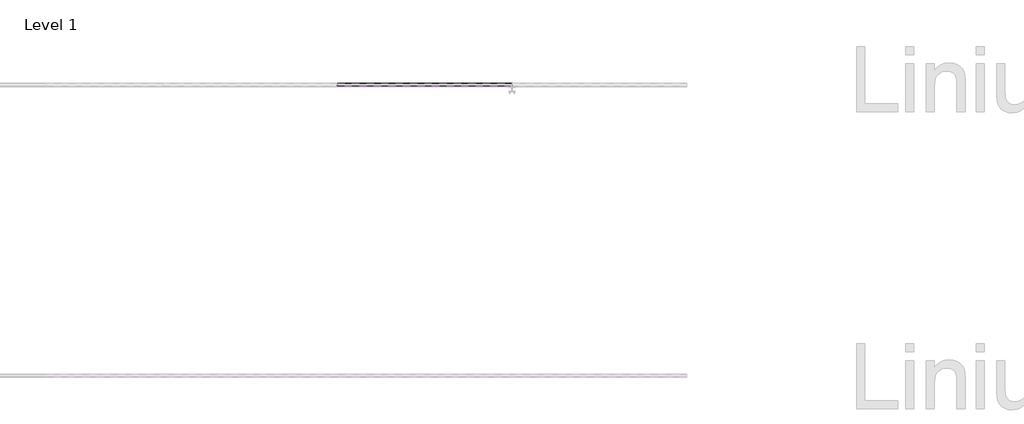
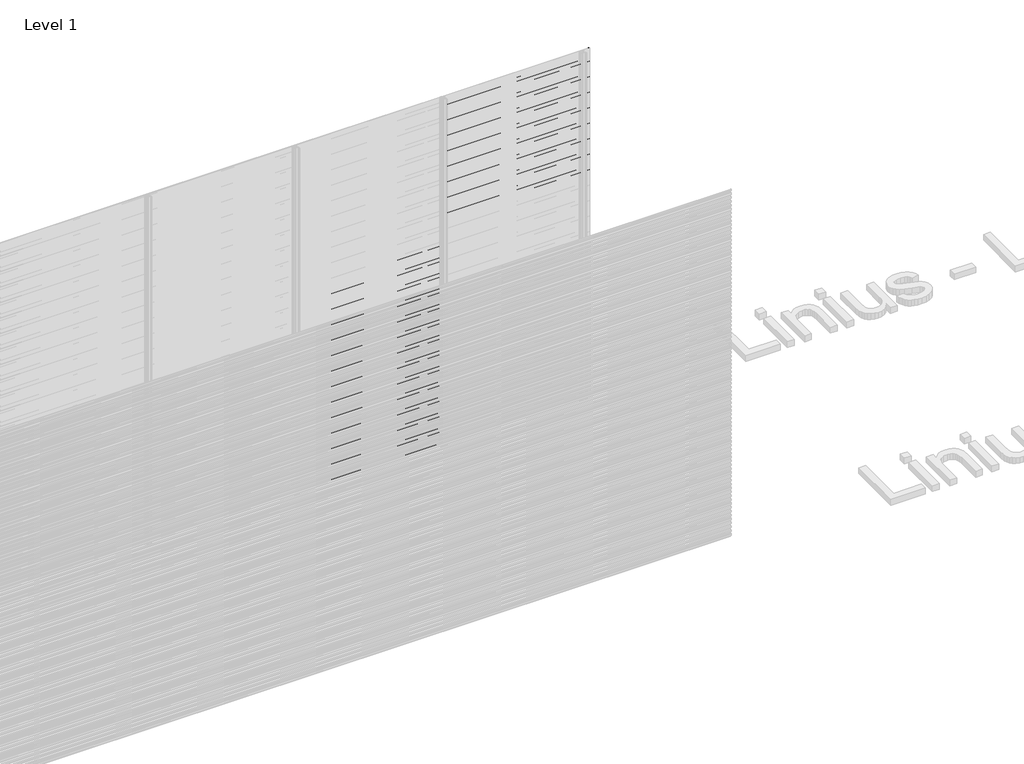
# One storey, part 41 of 507: 84 proxies.
"""IFC4 building model written with IfcOpenShell, lengths in millimetres."""

from ifc_helpers import new_model, si_unit, frame, origin, place, context, project, spatial, polyline, outline, extrude, element, save

model = new_model("IFC4")

# Units and contexts
model_context = context("Model", 3, world=origin())
ifc_project = project(units=[si_unit("LENGTHUNIT", "METRE", prefix="MILLI")], contexts=[model_context])

# Site, building, storey
site = spatial("IfcSite", under=ifc_project)
building = spatial("IfcBuilding", under=site)
storey = spatial("IfcBuildingStorey", under=building, Name="Level 1", Elevation=0.0)

# Proxies
placement = place(None, origin())
element("IfcBuildingElementProxy", 1, Name="Wall Sweeps", at=placement, inside=storey, context=model_context, shape_type="SweptSolid", body=[
    extrude(outline(polyline([(21503.4540136, 1707.6), (21503.4540136, 1694.1), (21502.2040136, 1694.8216933), (21502.2040136, 1706.8782281), (21483.0540136, 1717.9345698), (21483.0540136, 1731.6), (21484.3040136, 1731.6), (21484.3040136, 1718.6562577), (21503.4540136, 1707.6)])), frame((48566.6208096, 0.0, 0.0), z_axis=(1.0, 0.0, 0.0), x_axis=(0.0, 1.0, 0.0)), (0.0, 0.0, 1.0), 1199.9999999),
])
element("IfcBuildingElementProxy", 2, Name="Wall Sweeps", at=placement, inside=storey, context=model_context, shape_type="SweptSolid", body=[
    extrude(outline(polyline([(21503.4540136, 1674.3), (21503.4540136, 1660.8), (21502.2040136, 1661.5216933), (21502.2040136, 1673.5782281), (21483.0540136, 1684.6345698), (21483.0540136, 1698.3), (21484.3040136, 1698.3), (21484.3040136, 1685.3562577), (21503.4540136, 1674.3)])), frame((48566.6208096, 0.0, 0.0), z_axis=(1.0, 0.0, 0.0), x_axis=(0.0, 1.0, 0.0)), (0.0, 0.0, 1.0), 1199.9999999),
])
element("IfcBuildingElementProxy", 3, Name="Wall Sweeps", at=placement, inside=storey, context=model_context, shape_type="SweptSolid", body=[
    extrude(outline(polyline([(21503.4540136, 1641.0), (21503.4540136, 1627.5), (21502.2040136, 1628.2216933), (21502.2040136, 1640.2782281), (21483.0540136, 1651.3345698), (21483.0540136, 1665.0), (21484.3040136, 1665.0), (21484.3040136, 1652.0562577), (21503.4540136, 1641.0)])), frame((48566.6208096, 0.0, 0.0), z_axis=(1.0, 0.0, 0.0), x_axis=(0.0, 1.0, 0.0)), (0.0, 0.0, 1.0), 1199.9999999),
])
element("IfcBuildingElementProxy", 4, Name="Wall Sweeps", at=placement, inside=storey, context=model_context, shape_type="SweptSolid", body=[
    extrude(outline(polyline([(21503.4540136, 1607.7), (21503.4540136, 1594.2), (21502.2040136, 1594.9216933), (21502.2040136, 1606.9782281), (21483.0540136, 1618.0345698), (21483.0540136, 1631.7), (21484.3040136, 1631.7), (21484.3040136, 1618.7562577), (21503.4540136, 1607.7)])), frame((48566.6208096, 0.0, 0.0), z_axis=(1.0, 0.0, 0.0), x_axis=(0.0, 1.0, 0.0)), (0.0, 0.0, 1.0), 1199.9999999),
])
element("IfcBuildingElementProxy", 5, Name="Wall Sweeps", at=placement, inside=storey, context=model_context, shape_type="SweptSolid", body=[
    extrude(outline(polyline([(21503.4540136, 1574.4), (21503.4540136, 1560.9), (21502.2040136, 1561.6216933), (21502.2040136, 1573.6782281), (21483.0540136, 1584.7345698), (21483.0540136, 1598.4), (21484.3040136, 1598.4), (21484.3040136, 1585.4562577), (21503.4540136, 1574.4)])), frame((48566.6208096, 0.0, 0.0), z_axis=(1.0, 0.0, 0.0), x_axis=(0.0, 1.0, 0.0)), (0.0, 0.0, 1.0), 1199.9999999),
])
element("IfcBuildingElementProxy", 6, Name="Wall Sweeps", at=placement, inside=storey, context=model_context, shape_type="SweptSolid", body=[
    extrude(outline(polyline([(21503.4540136, 1541.1), (21503.4540136, 1527.6), (21502.2040136, 1528.3216933), (21502.2040136, 1540.3782281), (21483.0540136, 1551.4345698), (21483.0540136, 1565.1), (21484.3040136, 1565.1), (21484.3040136, 1552.1562577), (21503.4540136, 1541.1)])), frame((48566.6208096, 0.0, 0.0), z_axis=(1.0, 0.0, 0.0), x_axis=(0.0, 1.0, 0.0)), (0.0, 0.0, 1.0), 1199.9999999),
])
element("IfcBuildingElementProxy", 7, Name="Wall Sweeps", at=placement, inside=storey, context=model_context, shape_type="SweptSolid", body=[
    extrude(outline(polyline([(21503.4540136, 1507.8), (21503.4540136, 1494.3), (21502.2040136, 1495.0216933), (21502.2040136, 1507.0782281), (21483.0540136, 1518.1345698), (21483.0540136, 1531.8), (21484.3040136, 1531.8), (21484.3040136, 1518.8562577), (21503.4540136, 1507.8)])), frame((48566.6208096, 0.0, 0.0), z_axis=(1.0, 0.0, 0.0), x_axis=(0.0, 1.0, 0.0)), (0.0, 0.0, 1.0), 1199.9999999),
])
element("IfcBuildingElementProxy", 8, Name="Wall Sweeps", at=placement, inside=storey, context=model_context, shape_type="SweptSolid", body=[
    extrude(outline(polyline([(21503.4540136, 1474.5), (21503.4540136, 1461.0), (21502.2040136, 1461.7216933), (21502.2040136, 1473.7782281), (21483.0540136, 1484.8345698), (21483.0540136, 1498.5), (21484.3040136, 1498.5), (21484.3040136, 1485.5562577), (21503.4540136, 1474.5)])), frame((48566.6208096, 0.0, 0.0), z_axis=(1.0, 0.0, 0.0), x_axis=(0.0, 1.0, 0.0)), (0.0, 0.0, 1.0), 1199.9999999),
])
element("IfcBuildingElementProxy", 9, Name="Wall Sweeps", at=placement, inside=storey, context=model_context, shape_type="SweptSolid", body=[
    extrude(outline(polyline([(21503.4540136, 1441.2), (21503.4540136, 1427.7), (21502.2040136, 1428.4216933), (21502.2040136, 1440.4782281), (21483.0540136, 1451.5345698), (21483.0540136, 1465.2), (21484.3040136, 1465.2), (21484.3040136, 1452.2562577), (21503.4540136, 1441.2)])), frame((48566.6208096, 0.0, 0.0), z_axis=(1.0, 0.0, 0.0), x_axis=(0.0, 1.0, 0.0)), (0.0, 0.0, 1.0), 1199.9999999),
])
element("IfcBuildingElementProxy", 10, Name="Wall Sweeps", at=placement, inside=storey, context=model_context, shape_type="SweptSolid", body=[
    extrude(outline(polyline([(21503.4540136, 1407.9), (21503.4540136, 1394.4), (21502.2040136, 1395.1216933), (21502.2040136, 1407.1782281), (21483.0540136, 1418.2345698), (21483.0540136, 1431.9), (21484.3040136, 1431.9), (21484.3040136, 1418.9562577), (21503.4540136, 1407.9)])), frame((48566.6208096, 0.0, 0.0), z_axis=(1.0, 0.0, 0.0), x_axis=(0.0, 1.0, 0.0)), (0.0, 0.0, 1.0), 1199.9999999),
])
element("IfcBuildingElementProxy", 11, Name="Wall Sweeps", at=placement, inside=storey, context=model_context, shape_type="SweptSolid", body=[
    extrude(outline(polyline([(21503.4540136, 1374.6), (21503.4540136, 1361.1), (21502.2040136, 1361.8216933), (21502.2040136, 1373.8782281), (21483.0540136, 1384.9345698), (21483.0540136, 1398.6), (21484.3040136, 1398.6), (21484.3040136, 1385.6562577), (21503.4540136, 1374.6)])), frame((48566.6208096, 0.0, 0.0), z_axis=(1.0, 0.0, 0.0), x_axis=(0.0, 1.0, 0.0)), (0.0, 0.0, 1.0), 1199.9999999),
])
element("IfcBuildingElementProxy", 12, Name="Wall Sweeps", at=placement, inside=storey, context=model_context, shape_type="SweptSolid", body=[
    extrude(outline(polyline([(21503.4540136, 1341.3), (21503.4540136, 1327.8), (21502.2040136, 1328.5216933), (21502.2040136, 1340.5782281), (21483.0540136, 1351.6345698), (21483.0540136, 1365.3), (21484.3040136, 1365.3), (21484.3040136, 1352.3562577), (21503.4540136, 1341.3)])), frame((48566.6208096, 0.0, 0.0), z_axis=(1.0, 0.0, 0.0), x_axis=(0.0, 1.0, 0.0)), (0.0, 0.0, 1.0), 1199.9999999),
])
element("IfcBuildingElementProxy", 13, Name="Wall Sweeps", at=placement, inside=storey, context=model_context, shape_type="SweptSolid", body=[
    extrude(outline(polyline([(21503.4540136, 1308.0), (21503.4540136, 1294.5), (21502.2040136, 1295.2216933), (21502.2040136, 1307.2782281), (21483.0540136, 1318.3345698), (21483.0540136, 1332.0), (21484.3040136, 1332.0), (21484.3040136, 1319.0562577), (21503.4540136, 1308.0)])), frame((48566.6208096, 0.0, 0.0), z_axis=(1.0, 0.0, 0.0), x_axis=(0.0, 1.0, 0.0)), (0.0, 0.0, 1.0), 1199.9999999),
])
element("IfcBuildingElementProxy", 14, Name="Wall Sweeps", at=placement, inside=storey, context=model_context, shape_type="SweptSolid", body=[
    extrude(outline(polyline([(21503.4540136, 1274.7), (21503.4540136, 1261.2), (21502.2040136, 1261.9216933), (21502.2040136, 1273.9782281), (21483.0540136, 1285.0345698), (21483.0540136, 1298.7), (21484.3040136, 1298.7), (21484.3040136, 1285.7562577), (21503.4540136, 1274.7)])), frame((48566.6208096, 0.0, 0.0), z_axis=(1.0, 0.0, 0.0), x_axis=(0.0, 1.0, 0.0)), (0.0, 0.0, 1.0), 1199.9999999),
])
element("IfcBuildingElementProxy", 15, Name="Wall Sweeps", at=placement, inside=storey, context=model_context, shape_type="SweptSolid", body=[
    extrude(outline(polyline([(21503.4540136, 1241.4), (21503.4540136, 1227.9), (21502.2040136, 1228.6216933), (21502.2040136, 1240.6782281), (21483.0540136, 1251.7345698), (21483.0540136, 1265.4), (21484.3040136, 1265.4), (21484.3040136, 1252.4562577), (21503.4540136, 1241.4)])), frame((48566.6208096, 0.0, 0.0), z_axis=(1.0, 0.0, 0.0), x_axis=(0.0, 1.0, 0.0)), (0.0, 0.0, 1.0), 1199.9999999),
])
element("IfcBuildingElementProxy", 16, Name="Wall Sweeps", at=placement, inside=storey, context=model_context, shape_type="SweptSolid", body=[
    extrude(outline(polyline([(21503.4540136, 1208.1), (21503.4540136, 1194.6), (21502.2040136, 1195.3216933), (21502.2040136, 1207.3782281), (21483.0540136, 1218.4345698), (21483.0540136, 1232.1), (21484.3040136, 1232.1), (21484.3040136, 1219.1562577), (21503.4540136, 1208.1)])), frame((48566.6208096, 0.0, 0.0), z_axis=(1.0, 0.0, 0.0), x_axis=(0.0, 1.0, 0.0)), (0.0, 0.0, 1.0), 1199.9999999),
])
element("IfcBuildingElementProxy", 17, Name="Wall Sweeps", at=placement, inside=storey, context=model_context, shape_type="SweptSolid", body=[
    extrude(outline(polyline([(21503.4540136, 1174.8), (21503.4540136, 1161.3), (21502.2040136, 1162.0216933), (21502.2040136, 1174.0782281), (21483.0540136, 1185.1345698), (21483.0540136, 1198.8), (21484.3040136, 1198.8), (21484.3040136, 1185.8562577), (21503.4540136, 1174.8)])), frame((48566.6208096, 0.0, 0.0), z_axis=(1.0, 0.0, 0.0), x_axis=(0.0, 1.0, 0.0)), (0.0, 0.0, 1.0), 1199.9999999),
])
element("IfcBuildingElementProxy", 18, Name="Wall Sweeps", at=placement, inside=storey, context=model_context, shape_type="SweptSolid", body=[
    extrude(outline(polyline([(21503.4540136, 1141.5), (21503.4540136, 1128.0), (21502.2040136, 1128.7216933), (21502.2040136, 1140.7782281), (21483.0540136, 1151.8345698), (21483.0540136, 1165.5), (21484.3040136, 1165.5), (21484.3040136, 1152.5562577), (21503.4540136, 1141.5)])), frame((48566.6208096, 0.0, 0.0), z_axis=(1.0, 0.0, 0.0), x_axis=(0.0, 1.0, 0.0)), (0.0, 0.0, 1.0), 1199.9999999),
])
element("IfcBuildingElementProxy", 19, Name="Wall Sweeps", at=placement, inside=storey, context=model_context, shape_type="SweptSolid", body=[
    extrude(outline(polyline([(21503.4540136, 1108.2), (21503.4540136, 1094.7), (21502.2040136, 1095.4216933), (21502.2040136, 1107.4782281), (21483.0540136, 1118.5345698), (21483.0540136, 1132.2), (21484.3040136, 1132.2), (21484.3040136, 1119.2562577), (21503.4540136, 1108.2)])), frame((48566.6208096, 0.0, 0.0), z_axis=(1.0, 0.0, 0.0), x_axis=(0.0, 1.0, 0.0)), (0.0, 0.0, 1.0), 1199.9999999),
])
element("IfcBuildingElementProxy", 20, Name="Wall Sweeps", at=placement, inside=storey, context=model_context, shape_type="SweptSolid", body=[
    extrude(outline(polyline([(21503.4540136, 1074.9), (21503.4540136, 1061.4), (21502.2040136, 1062.1216933), (21502.2040136, 1074.1782281), (21483.0540136, 1085.2345698), (21483.0540136, 1098.9), (21484.3040136, 1098.9), (21484.3040136, 1085.9562577), (21503.4540136, 1074.9)])), frame((48566.6208096, 0.0, 0.0), z_axis=(1.0, 0.0, 0.0), x_axis=(0.0, 1.0, 0.0)), (0.0, 0.0, 1.0), 1199.9999999),
])
element("IfcBuildingElementProxy", 21, Name="Wall Sweeps", at=placement, inside=storey, context=model_context, shape_type="SweptSolid", body=[
    extrude(outline(polyline([(21503.4540136, 1041.6), (21503.4540136, 1028.1), (21502.2040136, 1028.8216933), (21502.2040136, 1040.8782281), (21483.0540136, 1051.9345698), (21483.0540136, 1065.6), (21484.3040136, 1065.6), (21484.3040136, 1052.6562577), (21503.4540136, 1041.6)])), frame((48566.6208096, 0.0, 0.0), z_axis=(1.0, 0.0, 0.0), x_axis=(0.0, 1.0, 0.0)), (0.0, 0.0, 1.0), 1199.9999999),
])
element("IfcBuildingElementProxy", 22, Name="Wall Sweeps", at=placement, inside=storey, context=model_context, shape_type="SweptSolid", body=[
    extrude(outline(polyline([(21503.4540136, 1008.3), (21503.4540136, 994.8), (21502.2040136, 995.5216933), (21502.2040136, 1007.5782281), (21483.0540136, 1018.6345698), (21483.0540136, 1032.3), (21484.3040136, 1032.3), (21484.3040136, 1019.3562577), (21503.4540136, 1008.3)])), frame((48566.6208096, 0.0, 0.0), z_axis=(1.0, 0.0, 0.0), x_axis=(0.0, 1.0, 0.0)), (0.0, 0.0, 1.0), 1199.9999999),
])
element("IfcBuildingElementProxy", 23, Name="Wall Sweeps", at=placement, inside=storey, context=model_context, shape_type="SweptSolid", body=[
    extrude(outline(polyline([(21503.4540136, 975.0), (21503.4540136, 961.5), (21502.2040136, 962.2216933), (21502.2040136, 974.2782281), (21483.0540136, 985.3345698), (21483.0540136, 999.0), (21484.3040136, 999.0), (21484.3040136, 986.0562577), (21503.4540136, 975.0)])), frame((48566.6208096, 0.0, 0.0), z_axis=(1.0, 0.0, 0.0), x_axis=(0.0, 1.0, 0.0)), (0.0, 0.0, 1.0), 1199.9999999),
])
element("IfcBuildingElementProxy", 24, Name="Wall Sweeps", at=placement, inside=storey, context=model_context, shape_type="SweptSolid", body=[
    extrude(outline(polyline([(21503.4540136, 941.7), (21503.4540136, 928.2), (21502.2040136, 928.9216933), (21502.2040136, 940.9782281), (21483.0540136, 952.0345698), (21483.0540136, 965.7), (21484.3040136, 965.7), (21484.3040136, 952.7562577), (21503.4540136, 941.7)])), frame((48566.6208096, 0.0, 0.0), z_axis=(1.0, 0.0, 0.0), x_axis=(0.0, 1.0, 0.0)), (0.0, 0.0, 1.0), 1199.9999999),
])
element("IfcBuildingElementProxy", 25, Name="Wall Sweeps", at=placement, inside=storey, context=model_context, shape_type="SweptSolid", body=[
    extrude(outline(polyline([(21503.4540136, 908.4), (21503.4540136, 894.9), (21502.2040136, 895.6216933), (21502.2040136, 907.6782281), (21483.0540136, 918.7345698), (21483.0540136, 932.4), (21484.3040136, 932.4), (21484.3040136, 919.4562577), (21503.4540136, 908.4)])), frame((48566.6208096, 0.0, 0.0), z_axis=(1.0, 0.0, 0.0), x_axis=(0.0, 1.0, 0.0)), (0.0, 0.0, 1.0), 1199.9999999),
])
element("IfcBuildingElementProxy", 26, Name="Wall Sweeps", at=placement, inside=storey, context=model_context, shape_type="SweptSolid", body=[
    extrude(outline(polyline([(21503.4540136, 875.1), (21503.4540136, 861.6), (21502.2040136, 862.3216933), (21502.2040136, 874.3782281), (21483.0540136, 885.4345698), (21483.0540136, 899.1), (21484.3040136, 899.1), (21484.3040136, 886.1562577), (21503.4540136, 875.1)])), frame((48566.6208096, 0.0, 0.0), z_axis=(1.0, 0.0, 0.0), x_axis=(0.0, 1.0, 0.0)), (0.0, 0.0, 1.0), 1199.9999999),
])
element("IfcBuildingElementProxy", 27, Name="Wall Sweeps", at=placement, inside=storey, context=model_context, shape_type="SweptSolid", body=[
    extrude(outline(polyline([(21503.4540136, 841.8), (21503.4540136, 828.3), (21502.2040136, 829.0216933), (21502.2040136, 841.0782281), (21483.0540136, 852.1345698), (21483.0540136, 865.8), (21484.3040136, 865.8), (21484.3040136, 852.8562577), (21503.4540136, 841.8)])), frame((48566.6208096, 0.0, 0.0), z_axis=(1.0, 0.0, 0.0), x_axis=(0.0, 1.0, 0.0)), (0.0, 0.0, 1.0), 1199.9999999),
])
element("IfcBuildingElementProxy", 28, Name="Wall Sweeps", at=placement, inside=storey, context=model_context, shape_type="SweptSolid", body=[
    extrude(outline(polyline([(21503.4540136, 808.5), (21503.4540136, 795.0), (21502.2040136, 795.7216933), (21502.2040136, 807.7782281), (21483.0540136, 818.8345698), (21483.0540136, 832.5), (21484.3040136, 832.5), (21484.3040136, 819.5562577), (21503.4540136, 808.5)])), frame((48566.6208096, 0.0, 0.0), z_axis=(1.0, 0.0, 0.0), x_axis=(0.0, 1.0, 0.0)), (0.0, 0.0, 1.0), 1199.9999999),
])
element("IfcBuildingElementProxy", 29, Name="Wall Sweeps", at=placement, inside=storey, context=model_context, shape_type="SweptSolid", body=[
    extrude(outline(polyline([(21503.4540136, 775.2), (21503.4540136, 761.7), (21502.2040136, 762.4216933), (21502.2040136, 774.4782281), (21483.0540136, 785.5345698), (21483.0540136, 799.2), (21484.3040136, 799.2), (21484.3040136, 786.2562577), (21503.4540136, 775.2)])), frame((48566.6208096, 0.0, 0.0), z_axis=(1.0, 0.0, 0.0), x_axis=(0.0, 1.0, 0.0)), (0.0, 0.0, 1.0), 1199.9999999),
])
element("IfcBuildingElementProxy", 30, Name="Wall Sweeps", at=placement, inside=storey, context=model_context, shape_type="SweptSolid", body=[
    extrude(outline(polyline([(21503.4540136, 741.9), (21503.4540136, 728.4), (21502.2040136, 729.1216933), (21502.2040136, 741.1782281), (21483.0540136, 752.2345698), (21483.0540136, 765.9), (21484.3040136, 765.9), (21484.3040136, 752.9562577), (21503.4540136, 741.9)])), frame((48566.6208096, 0.0, 0.0), z_axis=(1.0, 0.0, 0.0), x_axis=(0.0, 1.0, 0.0)), (0.0, 0.0, 1.0), 1199.9999999),
])
element("IfcBuildingElementProxy", 31, Name="Wall Sweeps", at=placement, inside=storey, context=model_context, shape_type="SweptSolid", body=[
    extrude(outline(polyline([(21503.4540136, 708.6), (21503.4540136, 695.1), (21502.2040136, 695.8216933), (21502.2040136, 707.8782281), (21483.0540136, 718.9345698), (21483.0540136, 732.6), (21484.3040136, 732.6), (21484.3040136, 719.6562577), (21503.4540136, 708.6)])), frame((48566.6208096, 0.0, 0.0), z_axis=(1.0, 0.0, 0.0), x_axis=(0.0, 1.0, 0.0)), (0.0, 0.0, 1.0), 1199.9999999),
])
element("IfcBuildingElementProxy", 32, Name="Wall Sweeps", at=placement, inside=storey, context=model_context, shape_type="SweptSolid", body=[
    extrude(outline(polyline([(21503.4540136, 675.3), (21503.4540136, 661.8), (21502.2040136, 662.5216933), (21502.2040136, 674.5782281), (21483.0540136, 685.6345698), (21483.0540136, 699.3), (21484.3040136, 699.3), (21484.3040136, 686.3562577), (21503.4540136, 675.3)])), frame((48566.6208096, 0.0, 0.0), z_axis=(1.0, 0.0, 0.0), x_axis=(0.0, 1.0, 0.0)), (0.0, 0.0, 1.0), 1199.9999999),
])
element("IfcBuildingElementProxy", 33, Name="Wall Sweeps", at=placement, inside=storey, context=model_context, shape_type="SweptSolid", body=[
    extrude(outline(polyline([(21503.4540136, 642.0), (21503.4540136, 628.5), (21502.2040136, 629.2216933), (21502.2040136, 641.2782281), (21483.0540136, 652.3345698), (21483.0540136, 666.0), (21484.3040136, 666.0), (21484.3040136, 653.0562577), (21503.4540136, 642.0)])), frame((48566.6208096, 0.0, 0.0), z_axis=(1.0, 0.0, 0.0), x_axis=(0.0, 1.0, 0.0)), (0.0, 0.0, 1.0), 1199.9999999),
])
element("IfcBuildingElementProxy", 34, Name="Wall Sweeps", at=placement, inside=storey, context=model_context, shape_type="SweptSolid", body=[
    extrude(outline(polyline([(21503.4540136, 608.7), (21503.4540136, 595.2), (21502.2040136, 595.9216933), (21502.2040136, 607.9782281), (21483.0540136, 619.0345698), (21483.0540136, 632.7), (21484.3040136, 632.7), (21484.3040136, 619.7562577), (21503.4540136, 608.7)])), frame((48566.6208096, 0.0, 0.0), z_axis=(1.0, 0.0, 0.0), x_axis=(0.0, 1.0, 0.0)), (0.0, 0.0, 1.0), 1199.9999999),
])
element("IfcBuildingElementProxy", 35, Name="Wall Sweeps", at=placement, inside=storey, context=model_context, shape_type="SweptSolid", body=[
    extrude(outline(polyline([(21503.4540136, 575.4), (21503.4540136, 561.9), (21502.2040136, 562.6216933), (21502.2040136, 574.6782281), (21483.0540136, 585.7345698), (21483.0540136, 599.4), (21484.3040136, 599.4), (21484.3040136, 586.4562577), (21503.4540136, 575.4)])), frame((48566.6208096, 0.0, 0.0), z_axis=(1.0, 0.0, 0.0), x_axis=(0.0, 1.0, 0.0)), (0.0, 0.0, 1.0), 1199.9999999),
])
element("IfcBuildingElementProxy", 36, Name="Wall Sweeps", at=placement, inside=storey, context=model_context, shape_type="SweptSolid", body=[
    extrude(outline(polyline([(21503.4540136, 542.1), (21503.4540136, 528.6), (21502.2040136, 529.3216933), (21502.2040136, 541.3782281), (21483.0540136, 552.4345698), (21483.0540136, 566.1), (21484.3040136, 566.1), (21484.3040136, 553.1562577), (21503.4540136, 542.1)])), frame((48566.6208096, 0.0, 0.0), z_axis=(1.0, 0.0, 0.0), x_axis=(0.0, 1.0, 0.0)), (0.0, 0.0, 1.0), 1199.9999999),
])
element("IfcBuildingElementProxy", 37, Name="Wall Sweeps", at=placement, inside=storey, context=model_context, shape_type="SweptSolid", body=[
    extrude(outline(polyline([(21503.4540136, 508.8), (21503.4540136, 495.3), (21502.2040136, 496.0216933), (21502.2040136, 508.0782281), (21483.0540136, 519.1345698), (21483.0540136, 532.8), (21484.3040136, 532.8), (21484.3040136, 519.8562577), (21503.4540136, 508.8)])), frame((48566.6208096, 0.0, 0.0), z_axis=(1.0, 0.0, 0.0), x_axis=(0.0, 1.0, 0.0)), (0.0, 0.0, 1.0), 1199.9999999),
])
element("IfcBuildingElementProxy", 38, Name="Wall Sweeps", at=placement, inside=storey, context=model_context, shape_type="SweptSolid", body=[
    extrude(outline(polyline([(21503.4540136, 475.5), (21503.4540136, 462.0), (21502.2040136, 462.7216933), (21502.2040136, 474.7782281), (21483.0540136, 485.8345698), (21483.0540136, 499.5), (21484.3040136, 499.5), (21484.3040136, 486.5562577), (21503.4540136, 475.5)])), frame((48566.6208096, 0.0, 0.0), z_axis=(1.0, 0.0, 0.0), x_axis=(0.0, 1.0, 0.0)), (0.0, 0.0, 1.0), 1199.9999999),
])
element("IfcBuildingElementProxy", 39, Name="Wall Sweeps", at=placement, inside=storey, context=model_context, shape_type="SweptSolid", body=[
    extrude(outline(polyline([(21503.4540136, 442.2), (21503.4540136, 428.7), (21502.2040136, 429.4216933), (21502.2040136, 441.4782281), (21483.0540136, 452.5345698), (21483.0540136, 466.2), (21484.3040136, 466.2), (21484.3040136, 453.2562577), (21503.4540136, 442.2)])), frame((48566.6208096, 0.0, 0.0), z_axis=(1.0, 0.0, 0.0), x_axis=(0.0, 1.0, 0.0)), (0.0, 0.0, 1.0), 1199.9999999),
])
element("IfcBuildingElementProxy", 40, Name="Wall Sweeps", at=placement, inside=storey, context=model_context, shape_type="SweptSolid", body=[
    extrude(outline(polyline([(21503.4540136, 408.9), (21503.4540136, 395.4), (21502.2040136, 396.1216933), (21502.2040136, 408.1782281), (21483.0540136, 419.2345698), (21483.0540136, 432.9), (21484.3040136, 432.9), (21484.3040136, 419.9562577), (21503.4540136, 408.9)])), frame((48566.6208096, 0.0, 0.0), z_axis=(1.0, 0.0, 0.0), x_axis=(0.0, 1.0, 0.0)), (0.0, 0.0, 1.0), 1199.9999999),
])
element("IfcBuildingElementProxy", 41, Name="Wall Sweeps", at=placement, inside=storey, context=model_context, shape_type="SweptSolid", body=[
    extrude(outline(polyline([(21503.4540136, 375.6), (21503.4540136, 362.1), (21502.2040136, 362.8216933), (21502.2040136, 374.8782281), (21483.0540136, 385.9345698), (21483.0540136, 399.6), (21484.3040136, 399.6), (21484.3040136, 386.6562577), (21503.4540136, 375.6)])), frame((48566.6208096, 0.0, 0.0), z_axis=(1.0, 0.0, 0.0), x_axis=(0.0, 1.0, 0.0)), (0.0, 0.0, 1.0), 1199.9999999),
])
element("IfcBuildingElementProxy", 42, Name="Wall Sweeps", at=placement, inside=storey, context=model_context, shape_type="SweptSolid", body=[
    extrude(outline(polyline([(21503.4540136, 342.3), (21503.4540136, 328.8), (21502.2040136, 329.5216933), (21502.2040136, 341.5782281), (21483.0540136, 352.6345698), (21483.0540136, 366.3), (21484.3040136, 366.3), (21484.3040136, 353.3562577), (21503.4540136, 342.3)])), frame((48566.6208096, 0.0, 0.0), z_axis=(1.0, 0.0, 0.0), x_axis=(0.0, 1.0, 0.0)), (0.0, 0.0, 1.0), 1199.9999999),
])
element("IfcBuildingElementProxy", 43, Name="Wall Sweeps", at=placement, inside=storey, context=model_context, shape_type="SweptSolid", body=[
    extrude(outline(polyline([(21503.4540136, 309.0), (21503.4540136, 295.5), (21502.2040136, 296.2216933), (21502.2040136, 308.2782281), (21483.0540136, 319.3345698), (21483.0540136, 333.0), (21484.3040136, 333.0), (21484.3040136, 320.0562577), (21503.4540136, 309.0)])), frame((48566.6208096, 0.0, 0.0), z_axis=(1.0, 0.0, 0.0), x_axis=(0.0, 1.0, 0.0)), (0.0, 0.0, 1.0), 1199.9999999),
])
element("IfcBuildingElementProxy", 44, Name="Wall Sweeps", at=placement, inside=storey, context=model_context, shape_type="SweptSolid", body=[
    extrude(outline(polyline([(21503.4540136, 275.7), (21503.4540136, 262.2), (21502.2040136, 262.9216933), (21502.2040136, 274.9782281), (21483.0540136, 286.0345698), (21483.0540136, 299.7), (21484.3040136, 299.7), (21484.3040136, 286.7562577), (21503.4540136, 275.7)])), frame((48566.6208096, 0.0, 0.0), z_axis=(1.0, 0.0, 0.0), x_axis=(0.0, 1.0, 0.0)), (0.0, 0.0, 1.0), 1199.9999999),
])
element("IfcBuildingElementProxy", 45, Name="Wall Sweeps", at=placement, inside=storey, context=model_context, shape_type="SweptSolid", body=[
    extrude(outline(polyline([(21503.4540136, 242.4), (21503.4540136, 228.9), (21502.2040136, 229.6216933), (21502.2040136, 241.6782281), (21483.0540136, 252.7345698), (21483.0540136, 266.4), (21484.3040136, 266.4), (21484.3040136, 253.4562577), (21503.4540136, 242.4)])), frame((48566.6208096, 0.0, 0.0), z_axis=(1.0, 0.0, 0.0), x_axis=(0.0, 1.0, 0.0)), (0.0, 0.0, 1.0), 1199.9999999),
])
element("IfcBuildingElementProxy", 46, Name="Wall Sweeps", at=placement, inside=storey, context=model_context, shape_type="SweptSolid", body=[
    extrude(outline(polyline([(21503.4540136, 209.1), (21503.4540136, 195.6), (21502.2040136, 196.3216933), (21502.2040136, 208.3782281), (21483.0540136, 219.4345698), (21483.0540136, 233.1), (21484.3040136, 233.1), (21484.3040136, 220.1562577), (21503.4540136, 209.1)])), frame((48566.6208096, 0.0, 0.0), z_axis=(1.0, 0.0, 0.0), x_axis=(0.0, 1.0, 0.0)), (0.0, 0.0, 1.0), 1199.9999999),
])
element("IfcBuildingElementProxy", 47, Name="Wall Sweeps", at=placement, inside=storey, context=model_context, shape_type="SweptSolid", body=[
    extrude(outline(polyline([(21503.4540136, 175.8), (21503.4540136, 162.3), (21502.2040136, 163.0216933), (21502.2040136, 175.0782281), (21483.0540136, 186.1345698), (21483.0540136, 199.8), (21484.3040136, 199.8), (21484.3040136, 186.8562577), (21503.4540136, 175.8)])), frame((48566.6208096, 0.0, 0.0), z_axis=(1.0, 0.0, 0.0), x_axis=(0.0, 1.0, 0.0)), (0.0, 0.0, 1.0), 1199.9999999),
])
element("IfcBuildingElementProxy", 48, Name="Wall Sweeps", at=placement, inside=storey, context=model_context, shape_type="SweptSolid", body=[
    extrude(outline(polyline([(21503.4540136, 142.5), (21503.4540136, 129.0), (21502.2040136, 129.7216933), (21502.2040136, 141.7782281), (21483.0540136, 152.8345698), (21483.0540136, 166.5), (21484.3040136, 166.5), (21484.3040136, 153.5562577), (21503.4540136, 142.5)])), frame((48566.6208096, 0.0, 0.0), z_axis=(1.0, 0.0, 0.0), x_axis=(0.0, 1.0, 0.0)), (0.0, 0.0, 1.0), 1199.9999999),
])
element("IfcBuildingElementProxy", 49, Name="Wall Sweeps", at=placement, inside=storey, context=model_context, shape_type="SweptSolid", body=[
    extrude(outline(polyline([(21503.4540136, 109.2), (21503.4540136, 95.7), (21502.2040136, 96.4216933), (21502.2040136, 108.4782281), (21483.0540136, 119.5345698), (21483.0540136, 133.2), (21484.3040136, 133.2), (21484.3040136, 120.2562577), (21503.4540136, 109.2)])), frame((48566.6208096, 0.0, 0.0), z_axis=(1.0, 0.0, 0.0), x_axis=(0.0, 1.0, 0.0)), (0.0, 0.0, 1.0), 1199.9999999),
])
element("IfcBuildingElementProxy", 50, Name="Wall Sweeps", at=placement, inside=storey, context=model_context, shape_type="SweptSolid", body=[
    extrude(outline(polyline([(21503.4540136, 75.9), (21503.4540136, 62.4), (21502.2040136, 63.1216933), (21502.2040136, 75.1782281), (21483.0540136, 86.2345698), (21483.0540136, 99.9), (21484.3040136, 99.9), (21484.3040136, 86.9562577), (21503.4540136, 75.9)])), frame((48566.6208096, 0.0, 0.0), z_axis=(1.0, 0.0, 0.0), x_axis=(0.0, 1.0, 0.0)), (0.0, 0.0, 1.0), 1199.9999999),
])
element("IfcBuildingElementProxy", 51, Name="Wall Sweeps", at=placement, inside=storey, context=model_context, shape_type="SweptSolid", body=[
    extrude(outline(polyline([(21503.4540136, 42.6), (21503.4540136, 29.1), (21502.2040136, 29.8216933), (21502.2040136, 41.8782281), (21483.0540136, 52.9345698), (21483.0540136, 66.6), (21484.3040136, 66.6), (21484.3040136, 53.6562577), (21503.4540136, 42.6)])), frame((48566.6208096, 0.0, 0.0), z_axis=(1.0, 0.0, 0.0), x_axis=(0.0, 1.0, 0.0)), (0.0, 0.0, 1.0), 1199.9999999),
])
element("IfcBuildingElementProxy", 52, Name="Wall Sweeps", at=placement, inside=storey, context=model_context, shape_type="SweptSolid", body=[
    extrude(outline(polyline([(21503.4540136, 9.3), (21503.4540136, -4.2), (21502.2040136, -3.4783067), (21502.2040136, 8.5782281), (21483.0540136, 19.6345698), (21483.0540136, 33.3), (21484.3040136, 33.3), (21484.3040136, 20.3562577), (21503.4540136, 9.3)])), frame((48566.6208096, 0.0, 0.0), z_axis=(1.0, 0.0, 0.0), x_axis=(0.0, 1.0, 0.0)), (0.0, 0.0, 1.0), 1199.9999999),
])
element("IfcBuildingElementProxy", 53, Name="Wall Sweeps", at=placement, inside=storey, context=model_context, shape_type="SweptSolid", body=[
    extrude(outline(polyline([(21503.4540136, 2973.0), (21503.4540136, 2959.5), (21502.2040136, 2960.2216933), (21502.2040136, 2972.2782281), (21483.0540136, 2983.3345698), (21483.0540136, 2997.0), (21484.3040136, 2997.0), (21484.3040136, 2984.0562577), (21503.4540136, 2973.0)])), frame((49766.6208095, 0.0, 0.0), z_axis=(1.0, 0.0, 0.0), x_axis=(0.0, 1.0, 0.0)), (0.0, 0.0, 1.0), 1200.0000002),
])
element("IfcBuildingElementProxy", 54, Name="Wall Sweeps", at=placement, inside=storey, context=model_context, shape_type="SweptSolid", body=[
    extrude(outline(polyline([(21503.4540136, 2939.7), (21503.4540136, 2926.2), (21502.2040136, 2926.9216933), (21502.2040136, 2938.9782281), (21483.0540136, 2950.0345698), (21483.0540136, 2963.7), (21484.3040136, 2963.7), (21484.3040136, 2950.7562577), (21503.4540136, 2939.7)])), frame((49766.6208095, 0.0, 0.0), z_axis=(1.0, 0.0, 0.0), x_axis=(0.0, 1.0, 0.0)), (0.0, 0.0, 1.0), 1200.0000002),
])
element("IfcBuildingElementProxy", 55, Name="Wall Sweeps", at=placement, inside=storey, context=model_context, shape_type="SweptSolid", body=[
    extrude(outline(polyline([(21503.4540136, 2906.4), (21503.4540136, 2892.9), (21502.2040136, 2893.6216933), (21502.2040136, 2905.6782281), (21483.0540136, 2916.7345698), (21483.0540136, 2930.4), (21484.3040136, 2930.4), (21484.3040136, 2917.4562577), (21503.4540136, 2906.4)])), frame((49766.6208095, 0.0, 0.0), z_axis=(1.0, 0.0, 0.0), x_axis=(0.0, 1.0, 0.0)), (0.0, 0.0, 1.0), 1200.0000002),
])
element("IfcBuildingElementProxy", 56, Name="Wall Sweeps", at=placement, inside=storey, context=model_context, shape_type="SweptSolid", body=[
    extrude(outline(polyline([(21503.4540136, 2873.1), (21503.4540136, 2859.6), (21502.2040136, 2860.3216933), (21502.2040136, 2872.3782281), (21483.0540136, 2883.4345698), (21483.0540136, 2897.1), (21484.3040136, 2897.1), (21484.3040136, 2884.1562577), (21503.4540136, 2873.1)])), frame((49766.6208095, 0.0, 0.0), z_axis=(1.0, 0.0, 0.0), x_axis=(0.0, 1.0, 0.0)), (0.0, 0.0, 1.0), 1200.0000002),
])
element("IfcBuildingElementProxy", 57, Name="Wall Sweeps", at=placement, inside=storey, context=model_context, shape_type="SweptSolid", body=[
    extrude(outline(polyline([(21503.4540136, 2839.8), (21503.4540136, 2826.3), (21502.2040136, 2827.0216933), (21502.2040136, 2839.0782281), (21483.0540136, 2850.1345698), (21483.0540136, 2863.8), (21484.3040136, 2863.8), (21484.3040136, 2850.8562577), (21503.4540136, 2839.8)])), frame((49766.6208095, 0.0, 0.0), z_axis=(1.0, 0.0, 0.0), x_axis=(0.0, 1.0, 0.0)), (0.0, 0.0, 1.0), 1200.0000002),
])
element("IfcBuildingElementProxy", 58, Name="Wall Sweeps", at=placement, inside=storey, context=model_context, shape_type="SweptSolid", body=[
    extrude(outline(polyline([(21503.4540136, 2806.5), (21503.4540136, 2793.0), (21502.2040136, 2793.7216933), (21502.2040136, 2805.7782281), (21483.0540136, 2816.8345698), (21483.0540136, 2830.5), (21484.3040136, 2830.5), (21484.3040136, 2817.5562577), (21503.4540136, 2806.5)])), frame((49766.6208095, 0.0, 0.0), z_axis=(1.0, 0.0, 0.0), x_axis=(0.0, 1.0, 0.0)), (0.0, 0.0, 1.0), 1200.0000002),
])
element("IfcBuildingElementProxy", 59, Name="Wall Sweeps", at=placement, inside=storey, context=model_context, shape_type="SweptSolid", body=[
    extrude(outline(polyline([(21503.4540136, 2773.2), (21503.4540136, 2759.7), (21502.2040136, 2760.4216933), (21502.2040136, 2772.4782281), (21483.0540136, 2783.5345698), (21483.0540136, 2797.2), (21484.3040136, 2797.2), (21484.3040136, 2784.2562577), (21503.4540136, 2773.2)])), frame((49766.6208095, 0.0, 0.0), z_axis=(1.0, 0.0, 0.0), x_axis=(0.0, 1.0, 0.0)), (0.0, 0.0, 1.0), 1200.0000002),
])
element("IfcBuildingElementProxy", 60, Name="Wall Sweeps", at=placement, inside=storey, context=model_context, shape_type="SweptSolid", body=[
    extrude(outline(polyline([(21503.4540136, 2739.9), (21503.4540136, 2726.4), (21502.2040136, 2727.1216933), (21502.2040136, 2739.1782281), (21483.0540136, 2750.2345698), (21483.0540136, 2763.9), (21484.3040136, 2763.9), (21484.3040136, 2750.9562577), (21503.4540136, 2739.9)])), frame((49766.6208095, 0.0, 0.0), z_axis=(1.0, 0.0, 0.0), x_axis=(0.0, 1.0, 0.0)), (0.0, 0.0, 1.0), 1200.0000002),
])
element("IfcBuildingElementProxy", 61, Name="Wall Sweeps", at=placement, inside=storey, context=model_context, shape_type="SweptSolid", body=[
    extrude(outline(polyline([(21503.4540136, 2706.6), (21503.4540136, 2693.1), (21502.2040136, 2693.8216933), (21502.2040136, 2705.8782281), (21483.0540136, 2716.9345698), (21483.0540136, 2730.6), (21484.3040136, 2730.6), (21484.3040136, 2717.6562577), (21503.4540136, 2706.6)])), frame((49766.6208095, 0.0, 0.0), z_axis=(1.0, 0.0, 0.0), x_axis=(0.0, 1.0, 0.0)), (0.0, 0.0, 1.0), 1200.0000002),
])
element("IfcBuildingElementProxy", 62, Name="Wall Sweeps", at=placement, inside=storey, context=model_context, shape_type="SweptSolid", body=[
    extrude(outline(polyline([(21503.4540136, 2673.3), (21503.4540136, 2659.8), (21502.2040136, 2660.5216933), (21502.2040136, 2672.5782281), (21483.0540136, 2683.6345698), (21483.0540136, 2697.3), (21484.3040136, 2697.3), (21484.3040136, 2684.3562577), (21503.4540136, 2673.3)])), frame((49766.6208095, 0.0, 0.0), z_axis=(1.0, 0.0, 0.0), x_axis=(0.0, 1.0, 0.0)), (0.0, 0.0, 1.0), 1200.0000002),
])
element("IfcBuildingElementProxy", 63, Name="Wall Sweeps", at=placement, inside=storey, context=model_context, shape_type="SweptSolid", body=[
    extrude(outline(polyline([(21503.4540136, 2640.0), (21503.4540136, 2626.5), (21502.2040136, 2627.2216933), (21502.2040136, 2639.2782281), (21483.0540136, 2650.3345698), (21483.0540136, 2664.0), (21484.3040136, 2664.0), (21484.3040136, 2651.0562577), (21503.4540136, 2640.0)])), frame((49766.6208095, 0.0, 0.0), z_axis=(1.0, 0.0, 0.0), x_axis=(0.0, 1.0, 0.0)), (0.0, 0.0, 1.0), 1200.0000002),
])
element("IfcBuildingElementProxy", 64, Name="Wall Sweeps", at=placement, inside=storey, context=model_context, shape_type="SweptSolid", body=[
    extrude(outline(polyline([(21503.4540136, 2606.7), (21503.4540136, 2593.2), (21502.2040136, 2593.9216933), (21502.2040136, 2605.9782281), (21483.0540136, 2617.0345698), (21483.0540136, 2630.7), (21484.3040136, 2630.7), (21484.3040136, 2617.7562577), (21503.4540136, 2606.7)])), frame((49766.6208095, 0.0, 0.0), z_axis=(1.0, 0.0, 0.0), x_axis=(0.0, 1.0, 0.0)), (0.0, 0.0, 1.0), 1200.0000002),
])
element("IfcBuildingElementProxy", 65, Name="Wall Sweeps", at=placement, inside=storey, context=model_context, shape_type="SweptSolid", body=[
    extrude(outline(polyline([(21503.4540136, 2573.4), (21503.4540136, 2559.9), (21502.2040136, 2560.6216933), (21502.2040136, 2572.6782281), (21483.0540136, 2583.7345698), (21483.0540136, 2597.4), (21484.3040136, 2597.4), (21484.3040136, 2584.4562577), (21503.4540136, 2573.4)])), frame((49766.6208095, 0.0, 0.0), z_axis=(1.0, 0.0, 0.0), x_axis=(0.0, 1.0, 0.0)), (0.0, 0.0, 1.0), 1200.0000002),
])
element("IfcBuildingElementProxy", 66, Name="Wall Sweeps", at=placement, inside=storey, context=model_context, shape_type="SweptSolid", body=[
    extrude(outline(polyline([(21503.4540136, 2540.1), (21503.4540136, 2526.6), (21502.2040136, 2527.3216933), (21502.2040136, 2539.3782281), (21483.0540136, 2550.4345698), (21483.0540136, 2564.1), (21484.3040136, 2564.1), (21484.3040136, 2551.1562577), (21503.4540136, 2540.1)])), frame((49766.6208095, 0.0, 0.0), z_axis=(1.0, 0.0, 0.0), x_axis=(0.0, 1.0, 0.0)), (0.0, 0.0, 1.0), 1200.0000002),
])
element("IfcBuildingElementProxy", 67, Name="Wall Sweeps", at=placement, inside=storey, context=model_context, shape_type="SweptSolid", body=[
    extrude(outline(polyline([(21503.4540136, 2506.8), (21503.4540136, 2493.3), (21502.2040136, 2494.0216933), (21502.2040136, 2506.0782281), (21483.0540136, 2517.1345698), (21483.0540136, 2530.8), (21484.3040136, 2530.8), (21484.3040136, 2517.8562577), (21503.4540136, 2506.8)])), frame((49766.6208095, 0.0, 0.0), z_axis=(1.0, 0.0, 0.0), x_axis=(0.0, 1.0, 0.0)), (0.0, 0.0, 1.0), 1200.0000002),
])
element("IfcBuildingElementProxy", 68, Name="Wall Sweeps", at=placement, inside=storey, context=model_context, shape_type="SweptSolid", body=[
    extrude(outline(polyline([(21503.4540136, 2473.5), (21503.4540136, 2460.0), (21502.2040136, 2460.7216933), (21502.2040136, 2472.7782281), (21483.0540136, 2483.8345698), (21483.0540136, 2497.5), (21484.3040136, 2497.5), (21484.3040136, 2484.5562577), (21503.4540136, 2473.5)])), frame((49766.6208095, 0.0, 0.0), z_axis=(1.0, 0.0, 0.0), x_axis=(0.0, 1.0, 0.0)), (0.0, 0.0, 1.0), 1200.0000002),
])
element("IfcBuildingElementProxy", 69, Name="Wall Sweeps", at=placement, inside=storey, context=model_context, shape_type="SweptSolid", body=[
    extrude(outline(polyline([(21503.4540136, 2440.2), (21503.4540136, 2426.7), (21502.2040136, 2427.4216933), (21502.2040136, 2439.4782281), (21483.0540136, 2450.5345698), (21483.0540136, 2464.2), (21484.3040136, 2464.2), (21484.3040136, 2451.2562577), (21503.4540136, 2440.2)])), frame((49766.6208095, 0.0, 0.0), z_axis=(1.0, 0.0, 0.0), x_axis=(0.0, 1.0, 0.0)), (0.0, 0.0, 1.0), 1200.0000002),
])
element("IfcBuildingElementProxy", 70, Name="Wall Sweeps", at=placement, inside=storey, context=model_context, shape_type="SweptSolid", body=[
    extrude(outline(polyline([(21503.4540136, 2406.9), (21503.4540136, 2393.4), (21502.2040136, 2394.1216933), (21502.2040136, 2406.1782281), (21483.0540136, 2417.2345698), (21483.0540136, 2430.9), (21484.3040136, 2430.9), (21484.3040136, 2417.9562577), (21503.4540136, 2406.9)])), frame((49766.6208095, 0.0, 0.0), z_axis=(1.0, 0.0, 0.0), x_axis=(0.0, 1.0, 0.0)), (0.0, 0.0, 1.0), 1200.0000002),
])
element("IfcBuildingElementProxy", 71, Name="Wall Sweeps", at=placement, inside=storey, context=model_context, shape_type="SweptSolid", body=[
    extrude(outline(polyline([(21503.4540136, 2373.6), (21503.4540136, 2360.1), (21502.2040136, 2360.8216933), (21502.2040136, 2372.8782281), (21483.0540136, 2383.9345698), (21483.0540136, 2397.6), (21484.3040136, 2397.6), (21484.3040136, 2384.6562577), (21503.4540136, 2373.6)])), frame((49766.6208095, 0.0, 0.0), z_axis=(1.0, 0.0, 0.0), x_axis=(0.0, 1.0, 0.0)), (0.0, 0.0, 1.0), 1200.0000002),
])
element("IfcBuildingElementProxy", 72, Name="Wall Sweeps", at=placement, inside=storey, context=model_context, shape_type="SweptSolid", body=[
    extrude(outline(polyline([(21503.4540136, 2340.3), (21503.4540136, 2326.8), (21502.2040136, 2327.5216933), (21502.2040136, 2339.5782281), (21483.0540136, 2350.6345698), (21483.0540136, 2364.3), (21484.3040136, 2364.3), (21484.3040136, 2351.3562577), (21503.4540136, 2340.3)])), frame((49766.6208095, 0.0, 0.0), z_axis=(1.0, 0.0, 0.0), x_axis=(0.0, 1.0, 0.0)), (0.0, 0.0, 1.0), 1200.0000002),
])
element("IfcBuildingElementProxy", 73, Name="Wall Sweeps", at=placement, inside=storey, context=model_context, shape_type="SweptSolid", body=[
    extrude(outline(polyline([(21503.4540136, 2307.0), (21503.4540136, 2293.5), (21502.2040136, 2294.2216933), (21502.2040136, 2306.2782281), (21483.0540136, 2317.3345698), (21483.0540136, 2331.0), (21484.3040136, 2331.0), (21484.3040136, 2318.0562577), (21503.4540136, 2307.0)])), frame((49766.6208095, 0.0, 0.0), z_axis=(1.0, 0.0, 0.0), x_axis=(0.0, 1.0, 0.0)), (0.0, 0.0, 1.0), 1200.0000002),
])
element("IfcBuildingElementProxy", 74, Name="Wall Sweeps", at=placement, inside=storey, context=model_context, shape_type="SweptSolid", body=[
    extrude(outline(polyline([(21503.4540136, 2273.7), (21503.4540136, 2260.2), (21502.2040136, 2260.9216933), (21502.2040136, 2272.9782281), (21483.0540136, 2284.0345698), (21483.0540136, 2297.7), (21484.3040136, 2297.7), (21484.3040136, 2284.7562577), (21503.4540136, 2273.7)])), frame((49766.6208095, 0.0, 0.0), z_axis=(1.0, 0.0, 0.0), x_axis=(0.0, 1.0, 0.0)), (0.0, 0.0, 1.0), 1200.0000002),
])
element("IfcBuildingElementProxy", 75, Name="Wall Sweeps", at=placement, inside=storey, context=model_context, shape_type="SweptSolid", body=[
    extrude(outline(polyline([(21503.4540136, 2240.4), (21503.4540136, 2226.9), (21502.2040136, 2227.6216933), (21502.2040136, 2239.6782281), (21483.0540136, 2250.7345698), (21483.0540136, 2264.4), (21484.3040136, 2264.4), (21484.3040136, 2251.4562577), (21503.4540136, 2240.4)])), frame((49766.6208095, 0.0, 0.0), z_axis=(1.0, 0.0, 0.0), x_axis=(0.0, 1.0, 0.0)), (0.0, 0.0, 1.0), 1200.0000002),
])
element("IfcBuildingElementProxy", 76, Name="Wall Sweeps", at=placement, inside=storey, context=model_context, shape_type="SweptSolid", body=[
    extrude(outline(polyline([(21503.4540136, 2207.1), (21503.4540136, 2193.6), (21502.2040136, 2194.3216933), (21502.2040136, 2206.3782281), (21483.0540136, 2217.4345698), (21483.0540136, 2231.1), (21484.3040136, 2231.1), (21484.3040136, 2218.1562577), (21503.4540136, 2207.1)])), frame((49766.6208095, 0.0, 0.0), z_axis=(1.0, 0.0, 0.0), x_axis=(0.0, 1.0, 0.0)), (0.0, 0.0, 1.0), 1200.0000002),
])
element("IfcBuildingElementProxy", 77, Name="Wall Sweeps", at=placement, inside=storey, context=model_context, shape_type="SweptSolid", body=[
    extrude(outline(polyline([(21503.4540136, 2173.8), (21503.4540136, 2160.3), (21502.2040136, 2161.0216933), (21502.2040136, 2173.0782281), (21483.0540136, 2184.1345698), (21483.0540136, 2197.8), (21484.3040136, 2197.8), (21484.3040136, 2184.8562577), (21503.4540136, 2173.8)])), frame((49766.6208095, 0.0, 0.0), z_axis=(1.0, 0.0, 0.0), x_axis=(0.0, 1.0, 0.0)), (0.0, 0.0, 1.0), 1200.0000002),
])
element("IfcBuildingElementProxy", 78, Name="Wall Sweeps", at=placement, inside=storey, context=model_context, shape_type="SweptSolid", body=[
    extrude(outline(polyline([(21503.4540136, 2140.5), (21503.4540136, 2127.0), (21502.2040136, 2127.7216933), (21502.2040136, 2139.7782281), (21483.0540136, 2150.8345698), (21483.0540136, 2164.5), (21484.3040136, 2164.5), (21484.3040136, 2151.5562577), (21503.4540136, 2140.5)])), frame((49766.6208095, 0.0, 0.0), z_axis=(1.0, 0.0, 0.0), x_axis=(0.0, 1.0, 0.0)), (0.0, 0.0, 1.0), 1200.0000002),
])
element("IfcBuildingElementProxy", 79, Name="Wall Sweeps", at=placement, inside=storey, context=model_context, shape_type="SweptSolid", body=[
    extrude(outline(polyline([(21503.4540136, 2107.2), (21503.4540136, 2093.7), (21502.2040136, 2094.4216933), (21502.2040136, 2106.4782281), (21483.0540136, 2117.5345698), (21483.0540136, 2131.2), (21484.3040136, 2131.2), (21484.3040136, 2118.2562577), (21503.4540136, 2107.2)])), frame((49766.6208095, 0.0, 0.0), z_axis=(1.0, 0.0, 0.0), x_axis=(0.0, 1.0, 0.0)), (0.0, 0.0, 1.0), 1200.0000002),
])
element("IfcBuildingElementProxy", 80, Name="Wall Sweeps", at=placement, inside=storey, context=model_context, shape_type="SweptSolid", body=[
    extrude(outline(polyline([(21503.4540136, 2073.9), (21503.4540136, 2060.4), (21502.2040136, 2061.1216933), (21502.2040136, 2073.1782281), (21483.0540136, 2084.2345698), (21483.0540136, 2097.9), (21484.3040136, 2097.9), (21484.3040136, 2084.9562577), (21503.4540136, 2073.9)])), frame((49766.6208095, 0.0, 0.0), z_axis=(1.0, 0.0, 0.0), x_axis=(0.0, 1.0, 0.0)), (0.0, 0.0, 1.0), 1200.0000002),
])
element("IfcBuildingElementProxy", 81, Name="Wall Sweeps", at=placement, inside=storey, context=model_context, shape_type="SweptSolid", body=[
    extrude(outline(polyline([(21503.4540136, 2040.6), (21503.4540136, 2027.1), (21502.2040136, 2027.8216933), (21502.2040136, 2039.8782281), (21483.0540136, 2050.9345698), (21483.0540136, 2064.6), (21484.3040136, 2064.6), (21484.3040136, 2051.6562577), (21503.4540136, 2040.6)])), frame((49766.6208095, 0.0, 0.0), z_axis=(1.0, 0.0, 0.0), x_axis=(0.0, 1.0, 0.0)), (0.0, 0.0, 1.0), 1200.0000002),
])
element("IfcBuildingElementProxy", 82, Name="Wall Sweeps", at=placement, inside=storey, context=model_context, shape_type="SweptSolid", body=[
    extrude(outline(polyline([(21503.4540136, 2007.3), (21503.4540136, 1993.8), (21502.2040136, 1994.5216933), (21502.2040136, 2006.5782281), (21483.0540136, 2017.6345698), (21483.0540136, 2031.3), (21484.3040136, 2031.3), (21484.3040136, 2018.3562577), (21503.4540136, 2007.3)])), frame((49766.6208095, 0.0, 0.0), z_axis=(1.0, 0.0, 0.0), x_axis=(0.0, 1.0, 0.0)), (0.0, 0.0, 1.0), 1200.0000002),
])
element("IfcBuildingElementProxy", 83, Name="Wall Sweeps", at=placement, inside=storey, context=model_context, shape_type="SweptSolid", body=[
    extrude(outline(polyline([(21503.4540136, 1974.0), (21503.4540136, 1960.5), (21502.2040136, 1961.2216933), (21502.2040136, 1973.2782281), (21483.0540136, 1984.3345698), (21483.0540136, 1998.0), (21484.3040136, 1998.0), (21484.3040136, 1985.0562577), (21503.4540136, 1974.0)])), frame((49766.6208095, 0.0, 0.0), z_axis=(1.0, 0.0, 0.0), x_axis=(0.0, 1.0, 0.0)), (0.0, 0.0, 1.0), 1200.0000002),
])
element("IfcBuildingElementProxy", 84, Name="Wall Sweeps", at=placement, inside=storey, context=model_context, shape_type="SweptSolid", body=[
    extrude(outline(polyline([(21503.4540136, 1940.7), (21503.4540136, 1927.2), (21502.2040136, 1927.9216933), (21502.2040136, 1939.9782281), (21483.0540136, 1951.0345698), (21483.0540136, 1964.7), (21484.3040136, 1964.7), (21484.3040136, 1951.7562577), (21503.4540136, 1940.7)])), frame((49766.6208095, 0.0, 0.0), z_axis=(1.0, 0.0, 0.0), x_axis=(0.0, 1.0, 0.0)), (0.0, 0.0, 1.0), 1200.0000002),
])

save(model, "model.ifc")
